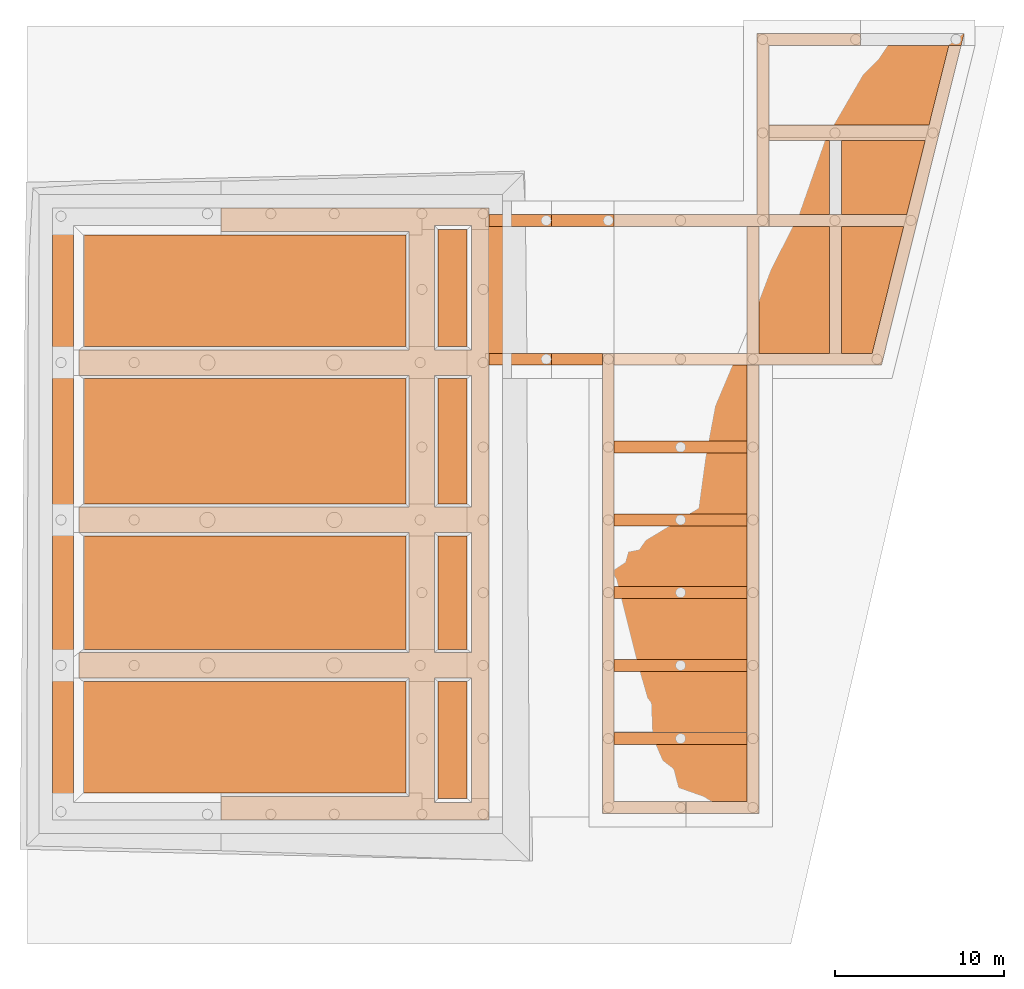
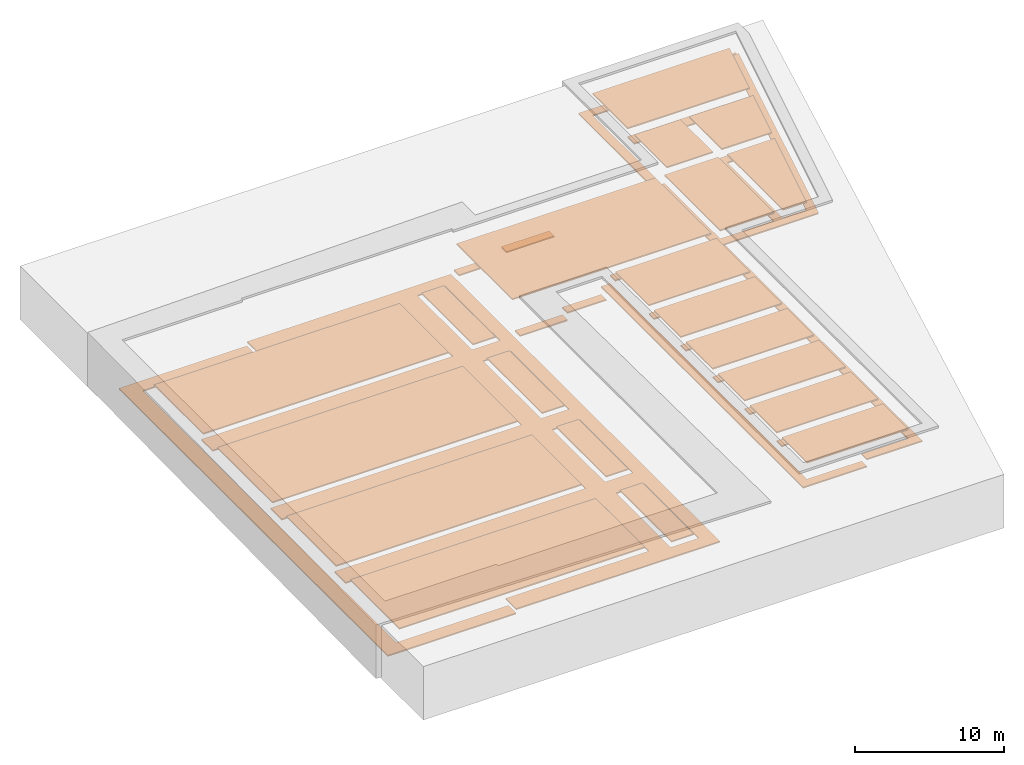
# One storey, part 7 of 7: 36 proxies.
"""IFC2X3 building model written with IfcOpenShell, lengths in millimetres."""

from ifc_helpers import new_model, entity, si_unit, converted_unit, derived_unit, money_unit, direction, frame, origin_with_axes, place, context, subcontext, project, spatial, polyline, outline, extrude, material, type_object, element, save


model = new_model("IFC2X3")

# Units and contexts
model_context = context("Model", 3, precision=0.01, world=origin_with_axes(), true_north=direction((0.0, 1.0)))
body_context = subcontext(model_context, "Body", "Model", "MODEL_VIEW")
ifc_project = project(units=[si_unit("LENGTHUNIT", "METRE", prefix="MILLI"), si_unit("AREAUNIT", "SQUARE_METRE"), si_unit("VOLUMEUNIT", "CUBIC_METRE"), converted_unit("PLANEANGLEUNIT", "DEGREE", entity("IfcPlaneAngleMeasure", 0.0174532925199), si_unit("PLANEANGLEUNIT", "RADIAN"), dimensions=[0, 0, 0, 0, 0, 0, 0]), money_unit("USD"), converted_unit("TIMEUNIT", "Year", entity("IfcTimeMeasure", 31556926.0), si_unit("TIMEUNIT", "SECOND"), dimensions=[0, 0, 1, 0, 0, 0, 0]), si_unit("MASSUNIT", "GRAM", prefix="KILO"), si_unit("THERMODYNAMICTEMPERATUREUNIT", "DEGREE_CELSIUS"), si_unit("LUMINOUSINTENSITYUNIT", "LUMEN"), si_unit("ENERGYUNIT", "JOULE", prefix="MEGA"), derived_unit("THERMALCONDUCTANCEUNIT", [(si_unit("POWERUNIT", "WATT"), 1), (si_unit("LENGTHUNIT", "METRE"), -1), (si_unit("THERMODYNAMICTEMPERATUREUNIT", "KELVIN"), -1)]), derived_unit("SPECIFICHEATCAPACITYUNIT", [(si_unit("ENERGYUNIT", "JOULE"), 1), (si_unit("MASSUNIT", "GRAM", prefix="KILO"), -1), (si_unit("THERMODYNAMICTEMPERATUREUNIT", "KELVIN"), -1)]), derived_unit("MASSDENSITYUNIT", [(si_unit("MASSUNIT", "GRAM", prefix="KILO"), 1), (si_unit("VOLUMEUNIT", "CUBIC_METRE"), -1)])], contexts=[model_context])

# Site, building, storey
site_placement = place(None, frame((9669.71692459, 4224.13032188, 0.0), z_axis=(0.0, 0.0, 1.0), x_axis=(1.0, 0.0, 0.0)))
site = spatial("IfcSite", under=ifc_project, at=site_placement, Name="Exteriér", CompositionType="ELEMENT")
building_placement = place(site_placement, origin_with_axes())
building = spatial("IfcBuilding", under=site, at=building_placement, Name="Budova", CompositionType="ELEMENT")
storey_placement = place(building_placement, frame((0.0, 0.0, -5000.0), z_axis=(0.0, 0.0, 1.0), x_axis=(1.0, 0.0, 0.0)))
storey = spatial("IfcBuildingStorey", under=building, at=storey_placement, Name="Základy", CompositionType="ELEMENT", Elevation=-5000.0)

# Proxies
ifc_material = material(Name="Beton Prostý C 16/20")
building_element_proxy_type = type_object("IfcBuildingElementProxyType", Name="Beton Prostý C 16/20 100", PredefinedType="NOTDEFINED")
proxy_1_placement = place(storey_placement, frame((10134.7371256, -3370.94736193, 1528.0), z_axis=(0.0, 0.0, 1.0), x_axis=(1.0, 0.0, 0.0)))
element("IfcBuildingElementProxy", 1, at=proxy_1_placement, inside=storey, type_object=building_element_proxy_type, material=ifc_material, Name="Podkladní beton", context=body_context, shape_type="SweptSolid", body=[
    extrude(outline(polyline([(0.0, 0.0), (1730.00029669, 0.0), (1730.00029669, 6909.99979259), (0.0, 6909.99979259), (0.0, 0.0)])), frame((0.0, 0.0, -100.0), z_axis=(0.0, 0.0, 1.0), x_axis=(1.0, 0.0, 0.0)), (0.0, 0.0, 1.0), 100.0),
])
proxy_2_placement = place(storey_placement, frame((10134.7371256, 14039.0526984, 1528.0), z_axis=(0.0, 0.0, 1.0), x_axis=(1.0, 0.0, 0.0)))
element("IfcBuildingElementProxy", 2, at=proxy_2_placement, inside=storey, type_object=building_element_proxy_type, material=ifc_material, Name="Podkladní beton", context=body_context, shape_type="SweptSolid", body=[
    extrude(outline(polyline([(0.0, 0.0), (1730.00029669, 0.0), (1730.00029669, 7399.99950456), (0.0, 7399.99950456), (0.0, 0.0)])), frame((0.0, 0.0, -100.0), z_axis=(0.0, 0.0, 1.0), x_axis=(1.0, 0.0, 0.0)), (0.0, 0.0, 1.0), 100.0),
])
proxy_3_placement = place(storey_placement, frame((29104.737132, 22939.0681254, 4490.0), z_axis=(0.0, 0.0, 1.0), x_axis=(1.0, 0.0, 0.0)))
element("IfcBuildingElementProxy", 3, at=proxy_3_placement, inside=storey, type_object=building_element_proxy_type, material=ifc_material, Name="Podkladní beton", context=body_context, shape_type="SweptSolid", body=[
    extrude(outline(polyline([(0.0, 0.0), (4170.0, 0.0), (4170.0, 7499.98437388), (0.0, 7499.98437388), (0.0, 0.0)])), frame((0.0, 0.0, -100.0), z_axis=(0.0, 0.0, 1.0), x_axis=(1.0, 0.0, 0.0)), (0.0, 0.0, 1.0), 100.0),
])
proxy_4_placement = place(storey_placement, frame((-10830.263015, -3055.94736193, 1528.0), z_axis=(0.0, 0.0, 1.0), x_axis=(1.0, 0.0, 0.0)))
element("IfcBuildingElementProxy", 4, at=proxy_4_placement, inside=storey, type_object=building_element_proxy_type, material=ifc_material, Name="Podkladní beton", context=body_context, shape_type="SweptSolid", body=[
    extrude(outline(polyline([(0.0, 0.0), (19065.000137, 0.0), (19065.000137, 6594.99979259), (0.0, 6594.99979259), (0.0, 0.0)])), frame((0.0, 0.0, -100.0), z_axis=(0.0, 0.0, 1.0), x_axis=(1.0, 0.0, 0.0)), (0.0, 0.0, 1.0), 100.0),
])
proxy_5_placement = place(storey_placement, frame((10134.7371256, 5439.05243066, 1528.0), z_axis=(0.0, 0.0, 1.0), x_axis=(1.0, 0.0, 0.0)))
element("IfcBuildingElementProxy", 5, at=proxy_5_placement, inside=storey, type_object=building_element_proxy_type, material=ifc_material, Name="Podkladní beton", context=body_context, shape_type="SweptSolid", body=[
    extrude(outline(polyline([(0.0, 0.0), (1730.00029669, 0.0), (1730.00029669, 6700.00026771), (0.0, 6700.00026771), (0.0, 0.0)])), frame((0.0, 0.0, -100.0), z_axis=(0.0, 0.0, 1.0), x_axis=(1.0, 0.0, 0.0)), (0.0, 0.0, 1.0), 100.0),
])
proxy_6_placement = place(storey_placement, frame((-10830.263015, 5439.05243066, 1528.0), z_axis=(0.0, 0.0, 1.0), x_axis=(1.0, 0.0, 0.0)))
element("IfcBuildingElementProxy", 6, at=proxy_6_placement, inside=storey, type_object=building_element_proxy_type, material=ifc_material, Name="Podkladní beton", context=body_context, shape_type="SweptSolid", body=[
    extrude(outline(polyline([(0.0, 0.0), (19065.000137, 0.0), (19065.000137, 6700.00026771), (0.0, 6700.00026771), (0.0, 0.0)])), frame((0.0, 0.0, -100.0), z_axis=(0.0, 0.0, 1.0), x_axis=(1.0, 0.0, 0.0)), (0.0, 0.0, 1.0), 100.0),
])
proxy_7_placement = place(storey_placement, frame((8434.73712196, 13839.0526984, 1250.0), z_axis=(0.0, 0.0, 1.0), x_axis=(1.0, 0.0, 0.0)))
element("IfcBuildingElementProxy", 7, at=proxy_7_placement, inside=storey, type_object=building_element_proxy_type, material=ifc_material, Name="Podkladní beton", context=body_context, shape_type="SweptSolid", body=[
    extrude(outline(polyline([(0.0, 0.0), (-19515.1115981, 0.0), (-19515.1115981, -1500.0), (0.0, -1500.0), (0.0, -8600.00026771), (-19515.1115981, -8600.00026771), (-19515.1115981, -10100.0002677), (0.0, -10100.0002677), (0.0, -17095.0000603), (-11115.25201, -17095.0000603), (-11115.25201, -18500.0000603), (4720.00030031, -18500.0000603), (4720.00030031, 17699.9998077), (-11115.25201, 17699.9998077), (-11115.25201, 16294.9998009), (0.0, 16294.9998009), (0.0, 9299.99950456), (-19515.1115981, 9299.99950456), (-19515.1115981, 7799.99950456), (0.0, 7799.99950456), (0.0, 0.0)]), holes=[polyline([(1499.99999595, 16659.9998009), (3680.00030031, 16659.9998009), (3680.00030031, 9299.99950456), (1500.00001339, 9299.99950456), (1499.99999595, 16659.9998009)]), polyline([(1500.00001339, 0.0), (1500.00001339, 7799.99950456), (3680.00030031, 7799.99950456), (3680.00030031, 0.0), (1500.00001339, 0.0)]), polyline([(1500.00001339, -8600.00026771), (1500.00001339, -1500.0), (3680.00030031, -1500.0), (3680.00030031, -8600.00026771), (1500.00001339, -8600.00026771)]), polyline([(1500.00001341, -17460.0000603), (1500.00001339, -10100.0002677), (3680.00030031, -10100.0002677), (3680.00030031, -17460.0000603), (1500.00001341, -17460.0000603)])]), frame((0.0, 0.0, -100.0), z_axis=(0.0, 0.0, 1.0), x_axis=(1.0, 0.0, 0.0)), (0.0, 0.0, 1.0), 100.0),
])
proxy_8_placement = place(storey_placement, frame((33974.737132, 22939.0681254, 4490.0), z_axis=(0.0, 0.0, 1.0), x_axis=(1.0, 0.0, 0.0)))
element("IfcBuildingElementProxy", 8, at=proxy_8_placement, inside=storey, type_object=building_element_proxy_type, material=ifc_material, Name="Podkladní beton", context=body_context, shape_type="SweptSolid", body=[
    extrude(outline(polyline([(0.0, 0.0), (1826.79272791, 0.0), (3696.19695427, 7499.98437388), (0.0, 7499.98437388), (0.0, 0.0)])), frame((0.0, 0.0, -100.0), z_axis=(0.0, 0.0, 1.0), x_axis=(1.0, 0.0, 0.0)), (0.0, 0.0, 1.0), 100.0),
])
proxy_9_placement = place(storey_placement, frame((28404.737132, -3560.94750073, 3690.0), z_axis=(0.0, 0.0, 1.0), x_axis=(1.0, 0.0, 0.0)))
element("IfcBuildingElementProxy", 9, at=proxy_9_placement, inside=storey, type_object=building_element_proxy_type, material=ifc_material, Name="Podkladní beton", context=body_context, shape_type="SweptSolid", body=[
    extrude(outline(polyline([(0.0, 0.0), (-3600.00000008, 0.0), (-3600.00000008, -699.999999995), (700.0, -699.999999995), (700.0, 25800.0), (0.0, 25800.0), (0.0, 0.0)])), frame((0.0, 0.0, -100.0), z_axis=(0.0, 0.0, 1.0), x_axis=(1.0, 0.0, 0.0)), (0.0, 0.0, 1.0), 100.0),
])
proxy_10_placement = place(storey_placement, frame((16834.7371319, 22239.0627679, 2450.0), z_axis=(0.0, 0.0, 1.0), x_axis=(1.0, 0.0, 0.0)))
element("IfcBuildingElementProxy", 10, at=proxy_10_placement, inside=storey, type_object=building_element_proxy_type, material=ifc_material, Name="Podkladní beton", context=body_context, shape_type="SweptSolid", body=[
    extrude(outline(polyline([(0.0, 0.0), (3020.0, 0.0), (3020.0, 700.0), (0.0, 700.0), (0.0, 0.0)])), frame((0.0, 0.0, -100.0), z_axis=(0.0, 0.0, 1.0), x_axis=(1.0, 0.0, 0.0)), (0.0, 0.0, 1.0), 100.0),
])
proxy_11_placement = place(storey_placement, frame((13154.7374223, 22239.0562395, 1837.0), z_axis=(0.0, 0.0, 1.0), x_axis=(1.0, 0.0, 0.0)))
element("IfcBuildingElementProxy", 11, at=proxy_11_placement, inside=storey, type_object=building_element_proxy_type, material=ifc_material, Name="Podkladní beton", context=body_context, shape_type="SweptSolid", body=[
    extrude(outline(polyline([(0.0, 0.0), (3679.99970961, 0.0), (3679.99970961, 700.0), (0.0, 700.0), (0.0, 0.0)])), frame((0.0, 0.0, -100.0), z_axis=(0.0, 0.0, 1.0), x_axis=(1.0, 0.0, 0.0)), (0.0, 0.0, 1.0), 100.0),
])
proxy_12_placement = place(storey_placement, frame((29704.737132, 31139.0524992, 4490.0), z_axis=(0.0, 0.0, 1.0), x_axis=(1.0, 0.0, 0.0)))
element("IfcBuildingElementProxy", 12, at=proxy_12_placement, inside=storey, type_object=building_element_proxy_type, material=ifc_material, Name="Podkladní beton", context=body_context, shape_type="SweptSolid", body=[
    extrude(outline(polyline([(0.0, 0.0), (3570.00006094, 0.0), (3570.00006094, 4380.00005511), (0.0, 4380.00005511), (0.0, 0.0)])), frame((0.0, 0.0, -100.0), z_axis=(0.0, 0.0, 1.0), x_axis=(1.0, 0.0, 0.0)), (0.0, 0.0, 1.0), 100.0),
])
proxy_13_placement = place(storey_placement, frame((-10830.263015, 14039.0526984, 1528.0), z_axis=(0.0, 0.0, 1.0), x_axis=(1.0, 0.0, 0.0)))
element("IfcBuildingElementProxy", 13, at=proxy_13_placement, inside=storey, type_object=building_element_proxy_type, material=ifc_material, Name="Podkladní beton", context=body_context, shape_type="SweptSolid", body=[
    extrude(outline(polyline([(0.0, 0.0), (19065.000137, 0.0), (19065.000137, 7399.99950456), (0.0, 7399.99950456), (0.0, 0.0)])), frame((0.0, 0.0, -100.0), z_axis=(0.0, 0.0, 1.0), x_axis=(1.0, 0.0, 0.0)), (0.0, 0.0, 1.0), 100.0),
])
proxy_14_placement = place(storey_placement, frame((16834.7371319, 30439.0524992, 2450.0), z_axis=(0.0, 0.0, 1.0), x_axis=(1.0, 0.0, 0.0)))
element("IfcBuildingElementProxy", 14, at=proxy_14_placement, inside=storey, type_object=building_element_proxy_type, material=ifc_material, Name="Podkladní beton", context=body_context, shape_type="SweptSolid", body=[
    extrude(outline(polyline([(0.0, 0.0), (3720.0, 0.0), (3720.0, 700.0), (0.0, 700.0), (0.0, 0.0)])), frame((0.0, 0.0, -100.0), z_axis=(0.0, 0.0, 1.0), x_axis=(1.0, 0.0, 0.0)), (0.0, 0.0, 1.0), 100.0),
])
proxy_15_placement = place(storey_placement, frame((20554.7371319, 9139.05249929, 4490.0), z_axis=(0.0, 0.0, 1.0), x_axis=(1.0, 0.0, 0.0)))
element("IfcBuildingElementProxy", 15, at=proxy_15_placement, inside=storey, type_object=building_element_proxy_type, material=ifc_material, Name="Podkladní beton", context=body_context, shape_type="SweptSolid", body=[
    extrude(outline(polyline([(0.0, 0.0), (7850.00000008, 0.0), (7850.00000008, 3599.99978556), (0.0, 3600.01541161), (0.0, 0.0)])), frame((0.0, 0.0, -100.0), z_axis=(0.0, 0.0, 1.0), x_axis=(1.0, 0.0, 0.0)), (0.0, 0.0, 1.0), 100.0),
])
proxy_16_placement = place(storey_placement, frame((33974.7370673, 31139.0524992, 4490.0), z_axis=(0.0, 0.0, 1.0), x_axis=(1.0, 0.0, 0.0)))
element("IfcBuildingElementProxy", 16, at=proxy_16_placement, inside=storey, type_object=building_element_proxy_type, material=ifc_material, Name="Podkladní beton", context=body_context, shape_type="SweptSolid", body=[
    extrude(outline(polyline([(0.0, 0.0), (3870.67506184, 0.0), (4962.40945308, 4380.00005511), (0.0, 4380.00005511), (0.0, 0.0)])), frame((0.0, 0.0, -100.0), z_axis=(0.0, 0.0, 1.0), x_axis=(1.0, 0.0, 0.0)), (0.0, 0.0, 1.0), 100.0),
])
proxy_17_placement = place(storey_placement, frame((12954.7358902, 22939.0558847, 4490.0), z_axis=(0.0, 0.0, 1.0), x_axis=(1.0, 0.0, 0.0)))
element("IfcBuildingElementProxy", 17, at=proxy_17_placement, inside=storey, type_object=building_element_proxy_type, material=ifc_material, Name="Podkladní beton", context=body_context, shape_type="SweptSolid", body=[
    extrude(outline(polyline([(0.0, 0.0), (15450.0012418, 0.0122406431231), (15450.0012418, 7499.99661453), (0.00124180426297, 7499.99661453), (0.0, 0.0)])), frame((0.0, 0.0, -100.0), z_axis=(0.0, 0.0, 1.0), x_axis=(1.0, 0.0, 0.0)), (0.0, 0.0, 1.0), 100.0),
])
proxy_18_placement = place(storey_placement, frame((20554.7371319, 8439.05249929, 3790.0), z_axis=(0.0, 0.0, 1.0), x_axis=(1.0, 0.0, 0.0)))
element("IfcBuildingElementProxy", 18, at=proxy_18_placement, inside=storey, type_object=building_element_proxy_type, material=ifc_material, Name="Podkladní beton", context=body_context, shape_type="SweptSolid", body=[
    extrude(outline(polyline([(0.0, 0.0), (7850.00000008, 0.0), (7850.00000008, 700.0), (0.0, 700.0), (0.0, 0.0)])), frame((0.0, 0.0, -100.0), z_axis=(0.0, 0.0, 1.0), x_axis=(1.0, 0.0, 0.0)), (0.0, 0.0, 1.0), 100.0),
])
proxy_19_placement = place(storey_placement, frame((-10830.263015, 23339.0522029, 1528.0), z_axis=(0.0, 0.0, 1.0), x_axis=(1.0, 0.0, 0.0)))
element("IfcBuildingElementProxy", 19, at=proxy_19_placement, inside=storey, type_object=building_element_proxy_type, material=ifc_material, Name="Podkladní beton", context=body_context, shape_type="SweptSolid", body=[
    extrude(outline(polyline([(0.0, 0.0), (19065.000137, 0.0), (19065.000137, 6595.00029633), (0.0, 6595.00029633), (0.0, 0.0)])), frame((0.0, 0.0, -100.0), z_axis=(0.0, 0.0, 1.0), x_axis=(1.0, 0.0, 0.0)), (0.0, 0.0, 1.0), 100.0),
])
proxy_20_placement = place(storey_placement, frame((20554.7371319, 13439.0524993, 4490.0), z_axis=(0.0, 0.0, 1.0), x_axis=(1.0, 0.0, 0.0)))
element("IfcBuildingElementProxy", 20, at=proxy_20_placement, inside=storey, type_object=building_element_proxy_type, material=ifc_material, Name="Podkladní beton", context=body_context, shape_type="SweptSolid", body=[
    extrude(outline(polyline([(0.0, 0.0), (7850.00000008, 0.0), (7850.00000008, 3600.00000003), (0.0, 3600.01562609), (0.0, 0.0)])), frame((0.0, 0.0, -100.0), z_axis=(0.0, 0.0, 1.0), x_axis=(1.0, 0.0, 0.0)), (0.0, 0.0, 1.0), 100.0),
])
proxy_21_placement = place(storey_placement, frame((20554.7371319, -185.947500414, 3790.0), z_axis=(0.0, 0.0, 1.0), x_axis=(1.0, 0.0, 0.0)))
element("IfcBuildingElementProxy", 21, at=proxy_21_placement, inside=storey, type_object=building_element_proxy_type, material=ifc_material, Name="Podkladní beton", context=body_context, shape_type="SweptSolid", body=[
    extrude(outline(polyline([(0.0, 0.0), (7850.00000008, 0.0), (7850.00000008, 700.0), (0.0, 700.0), (0.0, 0.0)])), frame((0.0, 0.0, -100.0), z_axis=(0.0, 0.0, 1.0), x_axis=(1.0, 0.0, 0.0)), (0.0, 0.0, 1.0), 100.0),
])
proxy_22_placement = place(storey_placement, frame((13154.7374223, 30439.0524992, 1837.0), z_axis=(0.0, 0.0, 1.0), x_axis=(1.0, 0.0, 0.0)))
element("IfcBuildingElementProxy", 22, at=proxy_22_placement, inside=storey, type_object=building_element_proxy_type, material=ifc_material, Name="Podkladní beton", context=body_context, shape_type="SweptSolid", body=[
    extrude(outline(polyline([(0.0, 0.0), (3679.99970961, 0.0), (3679.99970961, 700.0), (0.0, 700.0), (0.0, 0.0)])), frame((0.0, 0.0, -100.0), z_axis=(0.0, 0.0, 1.0), x_axis=(1.0, 0.0, 0.0)), (0.0, 0.0, 1.0), 100.0),
])
proxy_23_placement = place(storey_placement, frame((20554.7371319, 17039.0524993, 3790.0), z_axis=(0.0, 0.0, 1.0), x_axis=(1.0, 0.0, 0.0)))
element("IfcBuildingElementProxy", 23, at=proxy_23_placement, inside=storey, type_object=building_element_proxy_type, material=ifc_material, Name="Podkladní beton", context=body_context, shape_type="SweptSolid", body=[
    extrude(outline(polyline([(0.0, 0.0), (7850.00000008, 0.0), (7850.00000008, 700.0), (0.0, 700.0), (0.0, 0.0)])), frame((0.0, 0.0, -100.0), z_axis=(0.0, 0.0, 1.0), x_axis=(1.0, 0.0, 0.0)), (0.0, 0.0, 1.0), 100.0),
])
proxy_24_placement = place(storey_placement, frame((29704.737132, 36419.0524993, 4490.0), z_axis=(0.0, 0.0, 1.0), x_axis=(1.0, 0.0, 0.0)))
element("IfcBuildingElementProxy", 24, at=proxy_24_placement, inside=storey, type_object=building_element_proxy_type, material=ifc_material, Name="Podkladní beton", context=body_context, shape_type="SweptSolid", body=[
    extrude(outline(polyline([(0.0, 0.0), (9456.73836294, 0.0), (10633.2194351, 4720.00091403), (0.0, 4720.00091403), (0.0, 0.0)])), frame((0.0, 0.0, -100.0), z_axis=(0.0, 0.0, 1.0), x_axis=(1.0, 0.0, 0.0)), (0.0, 0.0, 1.0), 100.0),
])
proxy_25_placement = place(storey_placement, frame((20554.7371319, 22939.0693962, 3790.0), z_axis=(0.0, 0.0, 1.0), x_axis=(1.0, 0.0, 0.0)))
element("IfcBuildingElementProxy", 25, at=proxy_25_placement, inside=storey, type_object=building_element_proxy_type, material=ifc_material, Name="Podkladní beton", context=body_context, shape_type="SweptSolid", body=[
    extrude(outline(polyline([(0.0, 0.0), (0.0, -700.001270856), (15793.7316582, -700.001270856), (20504.6365159, 18199.9841554), (19783.2194176, 18199.9841554), (18606.7382153, 13479.9829716), (9150.00002528, 13479.9829716), (9150.00002528, 12579.9832145), (18382.4093252, 12579.9832145), (17290.6751085, 8199.98315433), (9150.00002528, 8199.98315433), (9150.00002528, 7499.98310565), (12719.9999069, 7499.98310565), (12719.9999069, -0.00122217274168), (8549.99998355, -0.00122217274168), (8549.99998355, 7499.98310565), (7849.993824, 7499.98310565), (7849.99993487, -0.00122217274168), (0.0, 0.0)]), holes=[polyline([(13419.9999556, -0.00122217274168), (13419.9999556, 7499.98310565), (17116.1968114, 7499.98310565), (15246.7928572, -0.00122217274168), (13419.9999556, -0.00122217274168)])]), frame((0.0, 0.0, -100.0), z_axis=(0.0, 0.0, 1.0), x_axis=(1.0, 0.0, 0.0)), (0.0, 0.0, 1.0), 100.0),
])
proxy_26_placement = place(storey_placement, frame((19854.7371319, -4260.94750072, 3100.0), z_axis=(0.0, 0.0, 1.0), x_axis=(1.0, 0.0, 0.0)))
element("IfcBuildingElementProxy", 26, at=proxy_26_placement, inside=storey, type_object=building_element_proxy_type, material=ifc_material, Name="Podkladní beton", context=body_context, shape_type="SweptSolid", body=[
    extrude(outline(polyline([(0.0, 0.0), (4950.0, 0.0), (4950.0, 699.999999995), (700.0, 699.999999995), (700.0, 27200.0168679), (0.0, 27200.0168679), (0.0, 0.0)])), frame((0.0, 0.0, -100.0), z_axis=(0.0, 0.0, 1.0), x_axis=(1.0, 0.0, 0.0)), (0.0, 0.0, 1.0), 100.0),
])
proxy_27_placement = place(storey_placement, frame((20554.7371319, 4139.05249926, 3790.0), z_axis=(0.0, 0.0, 1.0), x_axis=(1.0, 0.0, 0.0)))
element("IfcBuildingElementProxy", 27, at=proxy_27_placement, inside=storey, type_object=building_element_proxy_type, material=ifc_material, Name="Podkladní beton", context=body_context, shape_type="SweptSolid", body=[
    extrude(outline(polyline([(0.0, 0.0), (7850.00000008, 0.0), (7850.00000008, 700.0), (0.0, 700.0), (0.0, 0.0)])), frame((0.0, 0.0, -100.0), z_axis=(0.0, 0.0, 1.0), x_axis=(1.0, 0.0, 0.0)), (0.0, 0.0, 1.0), 100.0),
])
proxy_28_placement = place(storey_placement, frame((20554.7371319, 4839.05249926, 4490.0), z_axis=(0.0, 0.0, 1.0), x_axis=(1.0, 0.0, 0.0)))
element("IfcBuildingElementProxy", 28, at=proxy_28_placement, inside=storey, type_object=building_element_proxy_type, material=ifc_material, Name="Podkladní beton", context=body_context, shape_type="SweptSolid", body=[
    extrude(outline(polyline([(0.0, 0.0), (7850.00000008, 0.0), (7850.00000008, 3600.00000003), (0.0, 3600.01562609), (0.0, 0.0)])), frame((0.0, 0.0, -100.0), z_axis=(0.0, 0.0, 1.0), x_axis=(1.0, 0.0, 0.0)), (0.0, 0.0, 1.0), 100.0),
])
proxy_29_placement = place(storey_placement, frame((10134.7371256, 23339.0522029, 1528.0), z_axis=(0.0, 0.0, 1.0), x_axis=(1.0, 0.0, 0.0)))
element("IfcBuildingElementProxy", 29, at=proxy_29_placement, inside=storey, type_object=building_element_proxy_type, material=ifc_material, Name="Podkladní beton", context=body_context, shape_type="SweptSolid", body=[
    extrude(outline(polyline([(0.0, 0.0), (1730.00029669, 0.0), (1730.00029669, 6910.00029633), (0.0, 6910.00029633), (0.0, 0.0)])), frame((0.0, 0.0, -100.0), z_axis=(0.0, 0.0, 1.0), x_axis=(1.0, 0.0, 0.0)), (0.0, 0.0, 1.0), 100.0),
])
proxy_30_placement = place(storey_placement, frame((20554.7371319, 514.052499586, 4490.0), z_axis=(0.0, 0.0, 1.0), x_axis=(1.0, 0.0, 0.0)))
element("IfcBuildingElementProxy", 30, at=proxy_30_placement, inside=storey, type_object=building_element_proxy_type, material=ifc_material, Name="Podkladní beton", context=body_context, shape_type="SweptSolid", body=[
    extrude(outline(polyline([(0.0, 0.0), (7850.00000008, 0.0), (7850.00000008, 3624.99999967), (0.0, 3625.01562573), (0.0, 0.0)])), frame((0.0, 0.0, -100.0), z_axis=(0.0, 0.0, 1.0), x_axis=(1.0, 0.0, 0.0)), (0.0, 0.0, 1.0), 100.0),
])
proxy_31_placement = place(storey_placement, frame((-10830.263015, 31539.0524993, 900.0), z_axis=(0.0, 0.0, 1.0), x_axis=(1.0, 0.0, 0.0)))
element("IfcBuildingElementProxy", 31, at=proxy_31_placement, inside=storey, type_object=building_element_proxy_type, material=ifc_material, Name="Podkladní beton", context=body_context, shape_type="SweptSolid", body=[
    extrude(outline(polyline([(-1815.0, 0.0), (-1815.0, -36199.9998612), (8149.74812699, -36199.9998612), (8149.74812699, -35159.9998612), (-565.0, -35159.9998612), (-565.0, -1040.0), (8149.74812699, -1040.0), (8149.74812699, 0.0), (-1815.0, 0.0)])), frame((0.0, 0.0, -100.0), z_axis=(0.0, 0.0, 1.0), x_axis=(1.0, 0.0, 0.0)), (0.0, 0.0, 1.0), 100.0),
])
proxy_32_placement = place(storey_placement, frame((20554.7371319, 31139.0523556, 2670.0), z_axis=(0.0, 0.0, 1.0), x_axis=(1.0, 0.0, 0.0)))
element("IfcBuildingElementProxy", 32, at=proxy_32_placement, inside=storey, type_object=building_element_proxy_type, material=ifc_material, Name="Podkladní beton", context=body_context, shape_type="SweptSolid", body=[
    extrude(outline(polyline([(0.0, 0.0), (0.0, -699.999856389), (9150.00010706, -699.999856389), (9150.00010706, 10000.0011108), (14564.5591371, 10000.0011108), (14564.5591371, 10700.0009672), (8450.00003364, 10700.0009672), (8450.00003364, 0.0), (0.0, 0.0)])), frame((0.0, 0.0, -100.0), z_axis=(0.0, 0.0, 1.0), x_axis=(1.0, 0.0, 0.0)), (0.0, 0.0, 1.0), 100.0),
])
proxy_33_placement = place(storey_placement, frame((35119.296269, 41139.0534133, 3390.0), z_axis=(0.0, 0.0, 1.0), x_axis=(1.0, 0.0, 0.0)))
element("IfcBuildingElementProxy", 33, at=proxy_33_placement, inside=storey, type_object=building_element_proxy_type, material=ifc_material, Name="Podkladní beton", context=body_context, shape_type="SweptSolid", body=[
    extrude(outline(polyline([(0.0, 0.0), (5940.07737871, 0.0), (6114.55913707, 700.0), (0.0, 700.0), (0.0, 0.0)])), frame((0.0, 0.0, -100.0), z_axis=(0.0, 0.0, 1.0), x_axis=(1.0, 0.0, 0.0)), (0.0, 0.0, 1.0), 100.0),
])
proxy_34_placement = place(storey_placement, frame((20554.7371319, 17739.0524993, 4490.0), z_axis=(0.0, 0.0, 1.0), x_axis=(1.0, 0.0, 0.0)))
element("IfcBuildingElementProxy", 34, at=proxy_34_placement, inside=storey, type_object=building_element_proxy_type, material=ifc_material, Name="Podkladní beton", context=body_context, shape_type="SweptSolid", body=[
    extrude(outline(polyline([(0.0, 0.0), (7850.00000008, 0.0), (7850.00000008, 4500.0), (0.0, 4500.01562606), (0.0, 0.0)])), frame((0.0, 0.0, -100.0), z_axis=(0.0, 0.0, 1.0), x_axis=(1.0, 0.0, 0.0)), (0.0, 0.0, 1.0), 100.0),
])
proxy_35_placement = place(storey_placement, frame((20554.7371319, 12739.0524993, 3790.0), z_axis=(0.0, 0.0, 1.0), x_axis=(1.0, 0.0, 0.0)))
element("IfcBuildingElementProxy", 35, at=proxy_35_placement, inside=storey, type_object=building_element_proxy_type, material=ifc_material, Name="Podkladní beton", context=body_context, shape_type="SweptSolid", body=[
    extrude(outline(polyline([(0.0, 0.0), (7850.00000008, 0.0), (7850.00000008, 700.0), (0.0, 700.0), (0.0, 0.0)])), frame((0.0, 0.0, -100.0), z_axis=(0.0, 0.0, 1.0), x_axis=(1.0, 0.0, 0.0)), (0.0, 0.0, 1.0), 100.0),
])
proxy_36_placement = place(storey_placement, frame((20554.7371319, -3560.94750073, 4490.0), z_axis=(0.0, 0.0, 1.0), x_axis=(1.0, 0.0, 0.0)))
element("IfcBuildingElementProxy", 36, at=proxy_36_placement, inside=storey, type_object=building_element_proxy_type, material=ifc_material, Name="Podkladní beton", context=body_context, shape_type="SweptSolid", body=[
    extrude(outline(polyline([(0.0, 0.0), (7850.00000008, 0.0), (7850.00000008, 3374.98437426), (0.0, 3375.00000032), (0.0, 0.0)])), frame((0.0, 0.0, -100.0), z_axis=(0.0, 0.0, 1.0), x_axis=(1.0, 0.0, 0.0)), (0.0, 0.0, 1.0), 100.0),
])

save(model, "model.ifc")
